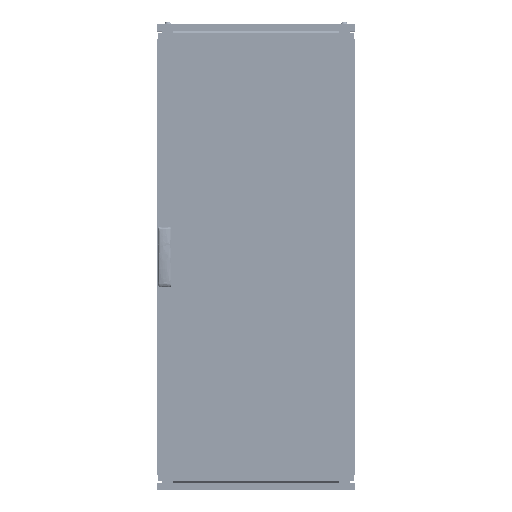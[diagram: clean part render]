
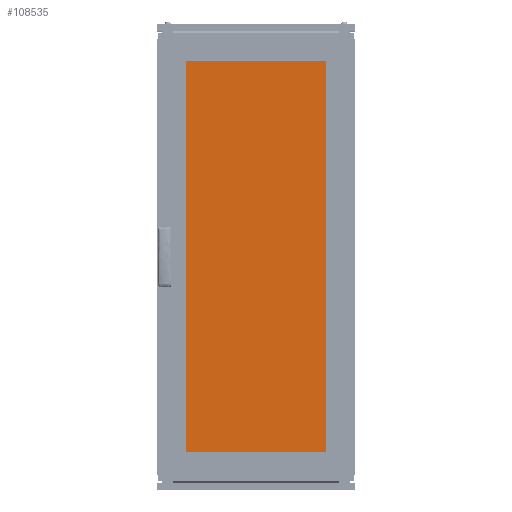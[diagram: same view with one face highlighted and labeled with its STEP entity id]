
A CAD part, top view. The second image highlights one B-rep face of the part: STEP entity #108535.
In plain terms, the highlighted planar face has unit normal (0, 0, 1).
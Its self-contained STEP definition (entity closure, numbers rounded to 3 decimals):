
#564 = EDGE_LOOP ( 'NONE', ( #4336, #15192, #28761, #99091 ) ) ;
#1016 = VERTEX_POINT ( 'NONE', #141124 ) ;
#4336 = ORIENTED_EDGE ( 'NONE', *, *, #32489, .T. ) ;
#6036 = EDGE_CURVE ( 'NONE', #1016, #123239, #71845, .T. ) ;
#6341 = EDGE_CURVE ( 'NONE', #123239, #46767, #25766, .T. ) ;
#10213 = CARTESIAN_POINT ( 'NONE',  ( -230., -610., 5. ) ) ;
#10798 = DIRECTION ( 'NONE',  ( 0., 1., 0. ) ) ;
#15192 = ORIENTED_EDGE ( 'NONE', *, *, #6036, .T. ) ;
#18819 = VERTEX_POINT ( 'NONE', #24328 ) ;
#23551 = VECTOR ( 'NONE', #10798, 1000. ) ;
#24328 = CARTESIAN_POINT ( 'NONE',  ( 230., -610., 5. ) ) ;
#25114 = DIRECTION ( 'NONE',  ( -1., 0., 0. ) ) ;
#25766 = LINE ( 'NONE', #85918, #153525 ) ;
#28761 = ORIENTED_EDGE ( 'NONE', *, *, #6341, .T. ) ;
#32489 = EDGE_CURVE ( 'NONE', #18819, #1016, #139805, .T. ) ;
#37531 = DIRECTION ( 'NONE',  ( 0., 0., -1. ) ) ;
#39469 = CARTESIAN_POINT ( 'NONE',  ( 0., 0., 5. ) ) ;
#41084 = DIRECTION ( 'NONE',  ( 0., -1., 0. ) ) ;
#42259 = CARTESIAN_POINT ( 'NONE',  ( -230., 610., 5. ) ) ;
#42398 = CARTESIAN_POINT ( 'NONE',  ( -230., -610., 5. ) ) ;
#46767 = VERTEX_POINT ( 'NONE', #42398 ) ;
#62614 = EDGE_CURVE ( 'NONE', #46767, #18819, #166999, .T. ) ;
#63285 = CARTESIAN_POINT ( 'NONE',  ( -230., 610., 5. ) ) ;
#67575 = DIRECTION ( 'NONE',  ( 1., 0., 0. ) ) ;
#71845 = LINE ( 'NONE', #42259, #180977 ) ;
#80437 = AXIS2_PLACEMENT_3D ( 'NONE', #39469, #37531, #25114 ) ;
#83433 = CARTESIAN_POINT ( 'NONE',  ( 230., -610., 5. ) ) ;
#85918 = CARTESIAN_POINT ( 'NONE',  ( -230., -610., 5. ) ) ;
#99091 = ORIENTED_EDGE ( 'NONE', *, *, #62614, .T. ) ;
#108535 = ADVANCED_FACE ( 'NONE', ( #124497 ), #182876, .F. ) ;
#123239 = VERTEX_POINT ( 'NONE', #63285 ) ;
#124497 = FACE_OUTER_BOUND ( 'NONE', #564, .T. ) ;
#129697 = VECTOR ( 'NONE', #67575, 1000. ) ;
#139805 = LINE ( 'NONE', #83433, #23551 ) ;
#141124 = CARTESIAN_POINT ( 'NONE',  ( 230., 610., 5. ) ) ;
#143526 = DIRECTION ( 'NONE',  ( -1., 0., 0. ) ) ;
#153525 = VECTOR ( 'NONE', #41084, 1000. ) ;
#166999 = LINE ( 'NONE', #10213, #129697 ) ;
#180977 = VECTOR ( 'NONE', #143526, 1000. ) ;
#182876 = PLANE ( 'NONE',  #80437 ) ;
